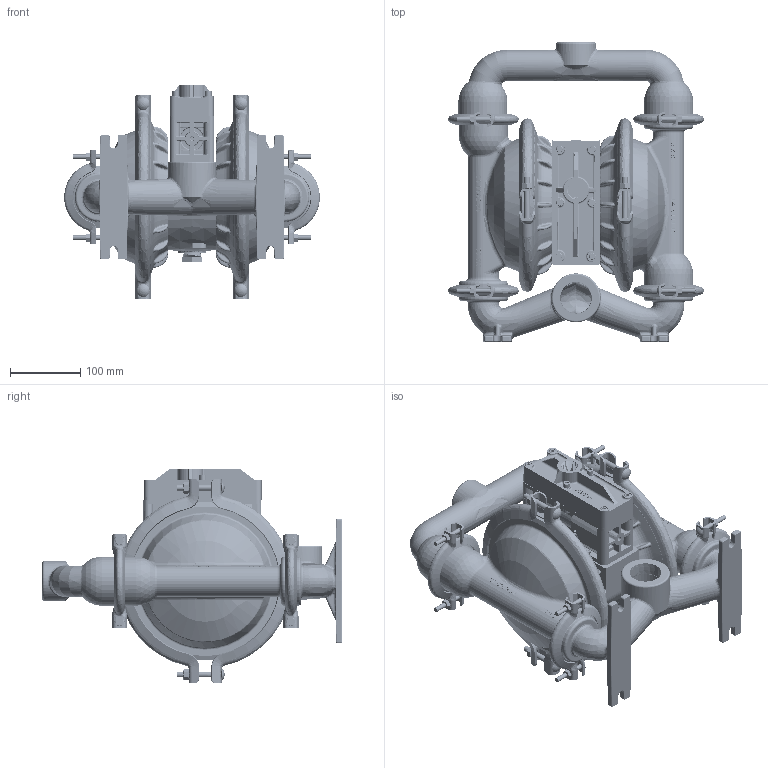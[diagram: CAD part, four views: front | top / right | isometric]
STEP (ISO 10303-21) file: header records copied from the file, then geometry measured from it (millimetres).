
FILE_DESCRIPTION((''),'2;1');
FILE_NAME('P4_SSAPP_TOP_SW0005','2020-10-16T13:42:30',('10013162'),(''),'CREO PARAMETRIC BY PTC INC, 2019080','CREO PARAMETRIC BY PTC INC, 2019080','');
FILE_SCHEMA(('CONFIG_CONTROL_DESIGN'));
Products named in the file (1): P4_SSAPP_TOP_SW0005
Bounding box: 364.75 x 427.79 x 306.96 mm (x, y, z)
Volume: 4346429.8 mm3; surface area: 1188656.5 mm2
Topology: 9 solids, 9 shells, 8165 faces, 21418 edges, 13466 vertices
Faces by surface type: plane 4704, bspline 1270, cylinder 1076, cone 530, torus 358, sphere 155, extrusion 72
Entity records: 451465 total; most frequent: CARTESIAN_POINT 262190, ORIENTED_EDGE 42780, DIRECTION 33949, EDGE_CURVE 21390, VERTEX_POINT 13466, VECTOR 13057, LINE 12985, AXIS2_PLACEMENT_3D 10446
